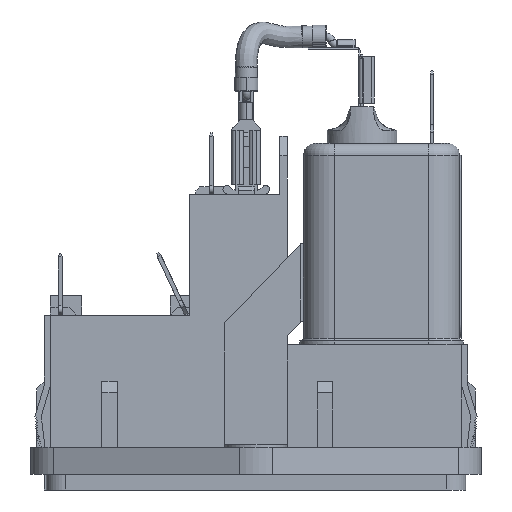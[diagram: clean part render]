
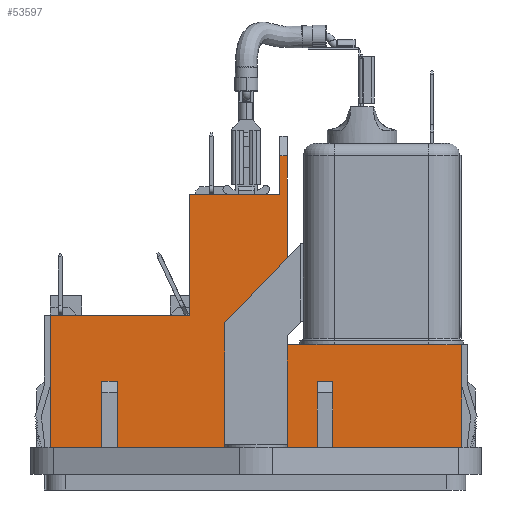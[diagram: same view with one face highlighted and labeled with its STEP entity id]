
A CAD part, left-side view. The second image highlights one B-rep face of the part: STEP entity #53597.
In plain terms, the highlighted planar face has unit normal (-1, 0, 0).
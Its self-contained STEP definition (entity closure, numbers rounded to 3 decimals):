
#14263=CARTESIAN_POINT('',(-13.35,8.55,36.0));
#14264=VERTEX_POINT('',#14263);
#14265=CARTESIAN_POINT('',(-13.35,-3.05,36.0));
#14266=VERTEX_POINT('',#14265);
#14267=CARTESIAN_POINT('',(-13.35,8.55,36.0));
#14268=DIRECTION('',(0.0,-1.0,0.0));
#14269=VECTOR('',#14268,11.6);
#14270=LINE('',#14267,#14269);
#14271=EDGE_CURVE('',#14264,#14266,#14270,.T.);
#40538=CARTESIAN_POINT('',(-13.35,-7.4,16.7));
#40539=VERTEX_POINT('',#40538);
#40540=CARTESIAN_POINT('',(-13.35,-7.748,16.7));
#40541=VERTEX_POINT('',#40540);
#40542=CARTESIAN_POINT('',(-13.35,-7.4,16.7));
#40543=DIRECTION('',(0.0,-1.0,0.0));
#40544=VECTOR('',#40543,0.348);
#40545=LINE('',#40542,#40544);
#40546=EDGE_CURVE('',#40539,#40541,#40545,.T.);
#40565=CARTESIAN_POINT('',(-13.35,-24.552,16.7));
#40566=VERTEX_POINT('',#40565);
#40574=CARTESIAN_POINT('',(-13.35,-24.9,16.7));
#40575=VERTEX_POINT('',#40574);
#40576=CARTESIAN_POINT('',(-13.35,-24.552,16.7));
#40577=DIRECTION('',(0.0,-1.0,0.0));
#40578=VECTOR('',#40577,0.348);
#40579=LINE('',#40576,#40578);
#40580=EDGE_CURVE('',#40566,#40575,#40579,.T.);
#43742=CARTESIAN_POINT('',(-13.35,-10.25,16.7));
#43743=VERTEX_POINT('',#43742);
#43744=CARTESIAN_POINT('',(-13.35,-7.748,16.7));
#43745=DIRECTION('',(0.0,-1.0,0.0));
#43746=VECTOR('',#43745,2.502);
#43747=LINE('',#43744,#43746);
#43748=EDGE_CURVE('',#40541,#43743,#43747,.T.);
#43803=CARTESIAN_POINT('',(-13.35,-4.05,16.7));
#43804=VERTEX_POINT('',#43803);
#43811=CARTESIAN_POINT('',(-13.35,-4.05,16.7));
#43812=DIRECTION('',(0.0,-1.0,0.0));
#43813=VECTOR('',#43812,3.35);
#43814=LINE('',#43811,#43813);
#43815=EDGE_CURVE('',#43804,#40539,#43814,.T.);
#43858=CARTESIAN_POINT('',(-13.35,-26.45,16.7));
#43859=VERTEX_POINT('',#43858);
#43860=CARTESIAN_POINT('',(-13.35,-24.9,16.7));
#43861=DIRECTION('',(0.0,-1.0,0.0));
#43862=VECTOR('',#43861,1.55);
#43863=LINE('',#43860,#43862);
#43864=EDGE_CURVE('',#40575,#43859,#43863,.T.);
#43962=CARTESIAN_POINT('',(-13.35,-22.05,16.7));
#43963=VERTEX_POINT('',#43962);
#43971=CARTESIAN_POINT('',(-13.35,-22.05,16.7));
#43972=DIRECTION('',(0.0,-1.0,0.0));
#43973=VECTOR('',#43972,2.502);
#43974=LINE('',#43971,#43973);
#43975=EDGE_CURVE('',#43963,#40566,#43974,.T.);
#44315=CARTESIAN_POINT('',(-13.35,-26.45,3.5));
#44316=VERTEX_POINT('',#44315);
#44323=CARTESIAN_POINT('',(-13.35,-9.9,3.5));
#44324=VERTEX_POINT('',#44323);
#44325=CARTESIAN_POINT('',(-13.35,-26.45,3.5));
#44326=DIRECTION('',(0.0,1.0,0.0));
#44327=VECTOR('',#44326,16.55);
#44328=LINE('',#44325,#44327);
#44329=EDGE_CURVE('',#44316,#44324,#44328,.T.);
#44347=CARTESIAN_POINT('',(-13.35,-7.9,3.5));
#44348=VERTEX_POINT('',#44347);
#44355=CARTESIAN_POINT('',(-13.35,17.85,3.5));
#44356=VERTEX_POINT('',#44355);
#44357=CARTESIAN_POINT('',(-13.35,-7.9,3.5));
#44358=DIRECTION('',(0.0,1.0,0.0));
#44359=VECTOR('',#44358,25.75);
#44360=LINE('',#44357,#44359);
#44361=EDGE_CURVE('',#44348,#44356,#44360,.T.);
#44379=CARTESIAN_POINT('',(-13.35,19.85,3.5));
#44380=VERTEX_POINT('',#44379);
#44387=CARTESIAN_POINT('',(-13.35,26.45,3.5));
#44388=VERTEX_POINT('',#44387);
#44389=CARTESIAN_POINT('',(-13.35,19.85,3.5));
#44390=DIRECTION('',(0.0,1.0,0.0));
#44391=VECTOR('',#44390,6.6);
#44392=LINE('',#44389,#44391);
#44393=EDGE_CURVE('',#44380,#44388,#44392,.T.);
#45766=CARTESIAN_POINT('',(-13.35,8.55,20.5));
#45767=VERTEX_POINT('',#45766);
#45774=CARTESIAN_POINT('',(-13.35,8.55,20.5));
#45775=DIRECTION('',(0.0,0.0,1.0));
#45776=VECTOR('',#45775,15.5);
#45777=LINE('',#45774,#45776);
#45778=EDGE_CURVE('',#45767,#14264,#45777,.T.);
#45941=CARTESIAN_POINT('',(-13.35,26.45,20.5));
#45942=VERTEX_POINT('',#45941);
#45949=CARTESIAN_POINT('',(-13.35,8.55,20.5));
#45950=DIRECTION('',(0.0,1.0,0.0));
#45951=VECTOR('',#45950,17.9);
#45952=LINE('',#45949,#45951);
#45953=EDGE_CURVE('',#45767,#45942,#45952,.T.);
#52361=CARTESIAN_POINT('',(-13.35,19.85,12.));
#52362=VERTEX_POINT('',#52361);
#52379=CARTESIAN_POINT('',(-13.35,17.85,12.));
#52380=VERTEX_POINT('',#52379);
#52387=CARTESIAN_POINT('',(-13.35,19.85,12.));
#52388=DIRECTION('',(0.0,-1.0,0.0));
#52389=VECTOR('',#52388,2.0);
#52390=LINE('',#52387,#52389);
#52391=EDGE_CURVE('',#52362,#52380,#52390,.T.);
#52409=CARTESIAN_POINT('',(-13.35,17.85,12.0));
#52410=DIRECTION('',(0.0,0.0,-1.0));
#52411=VECTOR('',#52410,8.5);
#52412=LINE('',#52409,#52411);
#52413=EDGE_CURVE('',#52380,#44356,#52412,.T.);
#52423=CARTESIAN_POINT('',(-13.35,-7.9,12.));
#52424=VERTEX_POINT('',#52423);
#52441=CARTESIAN_POINT('',(-13.35,-9.9,12.));
#52442=VERTEX_POINT('',#52441);
#52449=CARTESIAN_POINT('',(-13.35,-7.9,12.));
#52450=DIRECTION('',(0.0,-1.0,0.0));
#52451=VECTOR('',#52450,2.0);
#52452=LINE('',#52449,#52451);
#52453=EDGE_CURVE('',#52424,#52442,#52452,.T.);
#52471=CARTESIAN_POINT('',(-13.35,-9.9,12.0));
#52472=DIRECTION('',(0.0,0.0,-1.0));
#52473=VECTOR('',#52472,8.5);
#52474=LINE('',#52471,#52473);
#52475=EDGE_CURVE('',#52442,#44324,#52474,.T.);
#52731=CARTESIAN_POINT('',(-13.35,-7.9,3.5));
#52732=DIRECTION('',(0.0,0.0,1.0));
#52733=VECTOR('',#52732,8.5);
#52734=LINE('',#52731,#52733);
#52735=EDGE_CURVE('',#44348,#52424,#52734,.T.);
#52765=CARTESIAN_POINT('',(-13.35,19.85,3.5));
#52766=DIRECTION('',(0.0,0.0,1.0));
#52767=VECTOR('',#52766,8.5);
#52768=LINE('',#52765,#52767);
#52769=EDGE_CURVE('',#44380,#52362,#52768,.T.);
#53480=CARTESIAN_POINT('',(-13.35,-4.05,41.0));
#53481=VERTEX_POINT('',#53480);
#53488=CARTESIAN_POINT('',(-13.35,-4.05,41.0));
#53489=DIRECTION('',(0.0,0.0,-1.0));
#53490=VECTOR('',#53489,24.3);
#53491=LINE('',#53488,#53490);
#53492=EDGE_CURVE('',#53481,#43804,#53491,.T.);
#53513=CARTESIAN_POINT('',(-13.35,-3.05,41.0));
#53514=VERTEX_POINT('',#53513);
#53521=CARTESIAN_POINT('',(-13.35,-3.05,41.0));
#53522=DIRECTION('',(0.0,-1.0,0.0));
#53523=VECTOR('',#53522,1.);
#53524=LINE('',#53521,#53523);
#53525=EDGE_CURVE('',#53514,#53481,#53524,.T.);
#53530=CARTESIAN_POINT('',(-13.35,-26.45,3.5));
#53531=DIRECTION('',(-1.0,0.0,0.0));
#53532=DIRECTION('',(0.0,0.0,1.0));
#53533=AXIS2_PLACEMENT_3D('',#53530,#53531,#53532);
#53534=PLANE('',#53533);
#53535=ORIENTED_EDGE('',*,*,#52475,.T.);
#53536=ORIENTED_EDGE('',*,*,#44329,.F.);
#53537=CARTESIAN_POINT('',(-13.35,-26.45,3.5));
#53538=DIRECTION('',(0.0,0.0,1.0));
#53539=VECTOR('',#53538,13.2);
#53540=LINE('',#53537,#53539);
#53541=EDGE_CURVE('',#44316,#43859,#53540,.T.);
#53542=ORIENTED_EDGE('',*,*,#53541,.T.);
#53543=ORIENTED_EDGE('',*,*,#43864,.F.);
#53544=ORIENTED_EDGE('',*,*,#40580,.F.);
#53545=ORIENTED_EDGE('',*,*,#43975,.F.);
#53546=CARTESIAN_POINT('',(-13.35,-22.05,18.7));
#53547=VERTEX_POINT('',#53546);
#53548=CARTESIAN_POINT('',(-13.35,-22.05,18.7));
#53549=DIRECTION('',(0.0,0.0,-1.0));
#53550=VECTOR('',#53549,2.);
#53551=LINE('',#53548,#53550);
#53552=EDGE_CURVE('',#53547,#43963,#53551,.T.);
#53553=ORIENTED_EDGE('',*,*,#53552,.F.);
#53554=CARTESIAN_POINT('',(-13.35,-10.25,18.7));
#53555=VERTEX_POINT('',#53554);
#53556=CARTESIAN_POINT('',(-13.35,-10.25,18.7));
#53557=DIRECTION('',(0.0,-1.0,0.0));
#53558=VECTOR('',#53557,11.8);
#53559=LINE('',#53556,#53558);
#53560=EDGE_CURVE('',#53555,#53547,#53559,.T.);
#53561=ORIENTED_EDGE('',*,*,#53560,.F.);
#53562=CARTESIAN_POINT('',(-13.35,-10.25,16.7));
#53563=DIRECTION('',(0.0,0.0,1.0));
#53564=VECTOR('',#53563,2.0);
#53565=LINE('',#53562,#53564);
#53566=EDGE_CURVE('',#43743,#53555,#53565,.T.);
#53567=ORIENTED_EDGE('',*,*,#53566,.F.);
#53568=ORIENTED_EDGE('',*,*,#43748,.F.);
#53569=ORIENTED_EDGE('',*,*,#40546,.F.);
#53570=ORIENTED_EDGE('',*,*,#43815,.F.);
#53571=ORIENTED_EDGE('',*,*,#53492,.F.);
#53572=ORIENTED_EDGE('',*,*,#53525,.F.);
#53573=CARTESIAN_POINT('',(-13.35,-3.05,36.));
#53574=DIRECTION('',(0.0,0.0,1.0));
#53575=VECTOR('',#53574,5.);
#53576=LINE('',#53573,#53575);
#53577=EDGE_CURVE('',#14266,#53514,#53576,.T.);
#53578=ORIENTED_EDGE('',*,*,#53577,.F.);
#53579=ORIENTED_EDGE('',*,*,#14271,.F.);
#53580=ORIENTED_EDGE('',*,*,#45778,.F.);
#53581=ORIENTED_EDGE('',*,*,#45953,.T.);
#53582=CARTESIAN_POINT('',(-13.35,26.45,3.5));
#53583=DIRECTION('',(0.0,0.0,1.0));
#53584=VECTOR('',#53583,17.);
#53585=LINE('',#53582,#53584);
#53586=EDGE_CURVE('',#44388,#45942,#53585,.T.);
#53587=ORIENTED_EDGE('',*,*,#53586,.F.);
#53588=ORIENTED_EDGE('',*,*,#44393,.F.);
#53589=ORIENTED_EDGE('',*,*,#52769,.T.);
#53590=ORIENTED_EDGE('',*,*,#52391,.T.);
#53591=ORIENTED_EDGE('',*,*,#52413,.T.);
#53592=ORIENTED_EDGE('',*,*,#44361,.F.);
#53593=ORIENTED_EDGE('',*,*,#52735,.T.);
#53594=ORIENTED_EDGE('',*,*,#52453,.T.);
#53595=EDGE_LOOP('',(#53535,#53536,#53542,#53543,#53544,#53545,#53553,#53561,#53567,#53568,#53569,#53570,#53571,#53572,#53578,#53579,#53580,#53581,#53587,#53588,#53589,#53590,#53591,#53592,#53593,#53594));
#53596=FACE_OUTER_BOUND('',#53595,.T.);
#53597=ADVANCED_FACE('',(#53596),#53534,.T.);
